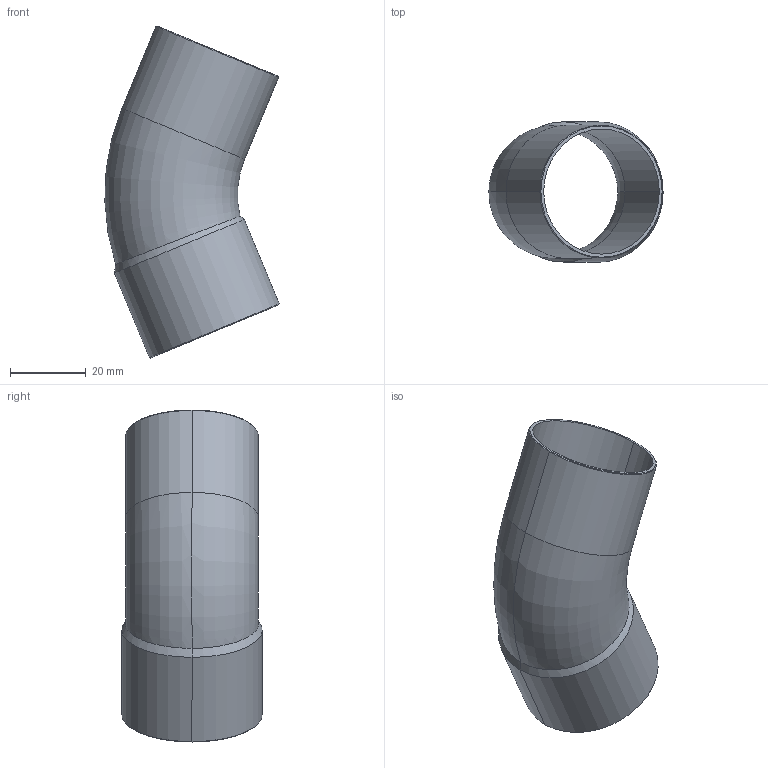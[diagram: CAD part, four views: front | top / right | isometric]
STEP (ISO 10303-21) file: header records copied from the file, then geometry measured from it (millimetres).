
FILE_DESCRIPTION((''),'2;1');
FILE_NAME('P:\Bouwmaten\z-maattekeningen 3D\5000\5040\1504035.stp','2005-10-05T11:29:57',('Kris'),(''),'Autodesk Inventor 8','Autodesk Inventor 8','');
FILE_SCHEMA(('AUTOMOTIVE_DESIGN { 1 0 10303 214 1 1 1 1 }'));
Length unit declared in the file: millimetre
Products named in the file (1): 1504035
Bounding box: 45.95 x 37 x 87.53 mm (x, y, z)
Volume: 8530.4 mm3; surface area: 17254.7 mm2
Topology: 1 solids, 1 shells, 24 faces, 50 edges, 28 vertices
Faces by surface type: cone 10, cylinder 8, torus 4, plane 2
Entity records: 729 total; most frequent: CARTESIAN_POINT 179, DIRECTION 124, ORIENTED_EDGE 100, AXIS2_PLACEMENT_3D 53, EDGE_CURVE 50, VERTEX_POINT 28, CIRCLE 28, EDGE_LOOP 26
